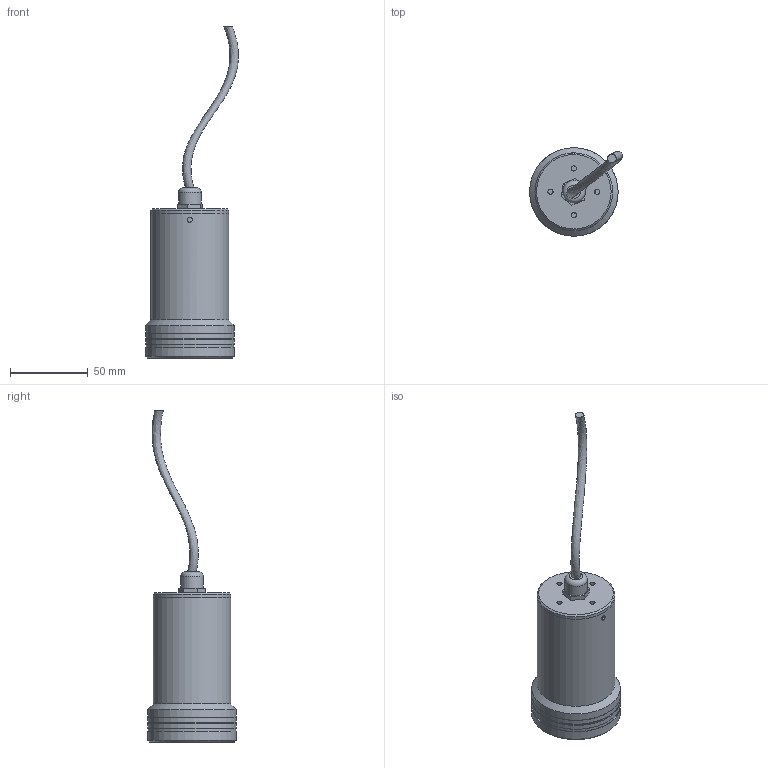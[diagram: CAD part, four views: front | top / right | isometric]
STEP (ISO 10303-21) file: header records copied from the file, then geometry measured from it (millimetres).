
FILE_DESCRIPTION (( 'STEP AP214' ), '1' );
FILE_NAME ('慾嫖聆擒3D.STEP', '2023-12-01T01:22:45', ( '' ), ( '' ), 'SwSTEP 2.0', 'SolidWorks 2021', '' );
FILE_SCHEMA (( 'AUTOMOTIVE_DESIGN' ));
Length unit declared in the file: millimetre
Products named in the file (1): 慾嫖聆擒3D
Bounding box: 59.8 x 57 x 213.67 mm (x, y, z)
Surface area: 27293.1 mm2 (no closed solid volume)
Topology: 0 solids, 6 shells, 42 faces, 93 edges, 64 vertices
Faces by surface type: plane 20, cylinder 17, cone 3, torus 1, bspline 1
Full cylindrical faces by diameter (mm): 3.2 x2, 3.3 x4, 14.5 x1, 28 x1, 46.8 x1, 50 x2, 56.4 x2, 57 x4
Entity records: 1787 total; most frequent: CARTESIAN_POINT 470, DIRECTION 182, ORIENTED_EDGE 106, EDGE_LOOP 83, AXIS2_PLACEMENT_3D 82, EDGE_CURVE 64, FACE_OUTER_BOUND 61, VERTEX_POINT 58
